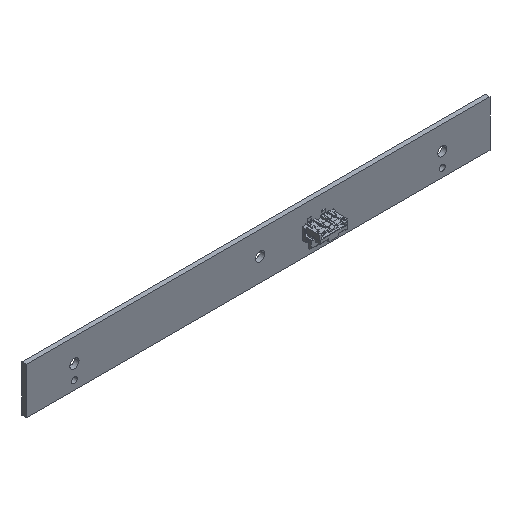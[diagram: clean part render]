
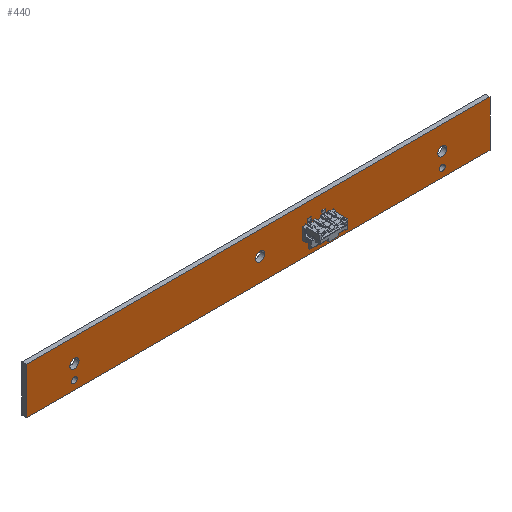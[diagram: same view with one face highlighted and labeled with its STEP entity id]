
A CAD part, isometric view. The second image highlights one B-rep face of the part: STEP entity #440.
In plain terms, the highlighted planar face has unit normal (0, -1, 0).
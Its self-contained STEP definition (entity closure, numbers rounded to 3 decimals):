
#24=DIRECTION('',(0.,0.,1.));
#25=VECTOR('',#24,16.);
#26=CARTESIAN_POINT('',(-80.,0.,-8.));
#27=LINE('',#26,#25);
#32=DIRECTION('',(1.,0.,0.));
#33=VECTOR('',#32,160.);
#34=CARTESIAN_POINT('',(-80.,0.,8.));
#35=LINE('',#34,#33);
#39=DIRECTION('',(0.,0.,-1.));
#40=VECTOR('',#39,16.);
#41=CARTESIAN_POINT('',(80.,0.,8.));
#42=LINE('',#41,#40);
#46=DIRECTION('',(-1.,0.,0.));
#47=VECTOR('',#46,160.);
#48=CARTESIAN_POINT('',(80.,0.,-8.));
#49=LINE('',#48,#47);
#53=CARTESIAN_POINT('',(-63.5,0.,0.));
#54=DIRECTION('',(0.,-1.,0.));
#55=DIRECTION('',(-1.,0.,0.));
#56=AXIS2_PLACEMENT_3D('',#53,#54,#55);
#61=CARTESIAN_POINT('',(-63.5,0.,0.));
#62=DIRECTION('',(0.,-1.,0.));
#63=DIRECTION('',(1.,0.,0.));
#64=AXIS2_PLACEMENT_3D('',#61,#62,#63);
#69=CARTESIAN_POINT('',(63.55,0.,0.));
#70=DIRECTION('',(0.,-1.,0.));
#71=DIRECTION('',(-1.,0.,0.));
#72=AXIS2_PLACEMENT_3D('',#69,#70,#71);
#77=CARTESIAN_POINT('',(63.55,0.,0.));
#78=DIRECTION('',(0.,-1.,0.));
#79=DIRECTION('',(1.,0.,0.));
#80=AXIS2_PLACEMENT_3D('',#77,#78,#79);
#85=CARTESIAN_POINT('',(63.55,0.,-5.));
#86=DIRECTION('',(0.,-1.,0.));
#87=DIRECTION('',(-1.,0.,0.));
#88=AXIS2_PLACEMENT_3D('',#85,#86,#87);
#93=CARTESIAN_POINT('',(63.55,0.,-5.));
#94=DIRECTION('',(0.,-1.,0.));
#95=DIRECTION('',(1.,0.,0.));
#96=AXIS2_PLACEMENT_3D('',#93,#94,#95);
#101=CARTESIAN_POINT('',(-63.5,0.,-5.));
#102=DIRECTION('',(0.,-1.,0.));
#103=DIRECTION('',(-1.,0.,0.));
#104=AXIS2_PLACEMENT_3D('',#101,#102,#103);
#109=CARTESIAN_POINT('',(-63.5,0.,-5.));
#110=DIRECTION('',(0.,-1.,0.));
#111=DIRECTION('',(1.,0.,0.));
#112=AXIS2_PLACEMENT_3D('',#109,#110,#111);
#117=CARTESIAN_POINT('',(0.6,0.,0.));
#118=DIRECTION('',(0.,-1.,0.));
#119=DIRECTION('',(-1.,0.,0.));
#120=AXIS2_PLACEMENT_3D('',#117,#118,#119);
#125=CARTESIAN_POINT('',(0.6,0.,0.));
#126=DIRECTION('',(0.,-1.,0.));
#127=DIRECTION('',(1.,0.,0.));
#128=AXIS2_PLACEMENT_3D('',#125,#126,#127);
#339=CARTESIAN_POINT('',(-80.,0.,-8.));
#340=CARTESIAN_POINT('',(-80.,0.,8.));
#341=VERTEX_POINT('',#339);
#342=VERTEX_POINT('',#340);
#343=CARTESIAN_POINT('',(80.,0.,8.));
#344=VERTEX_POINT('',#343);
#345=CARTESIAN_POINT('',(80.,0.,-8.));
#346=VERTEX_POINT('',#345);
#347=CARTESIAN_POINT('',(-65.1,0.,0.));
#348=CARTESIAN_POINT('',(-61.9,0.,0.));
#349=VERTEX_POINT('',#347);
#350=VERTEX_POINT('',#348);
#351=CARTESIAN_POINT('',(61.95,0.,0.));
#352=CARTESIAN_POINT('',(65.15,0.,0.));
#353=VERTEX_POINT('',#351);
#354=VERTEX_POINT('',#352);
#355=CARTESIAN_POINT('',(62.55,0.,-5.));
#356=CARTESIAN_POINT('',(64.55,0.,-5.));
#357=VERTEX_POINT('',#355);
#358=VERTEX_POINT('',#356);
#359=CARTESIAN_POINT('',(-64.5,0.,-5.));
#360=CARTESIAN_POINT('',(-62.5,0.,-5.));
#361=VERTEX_POINT('',#359);
#362=VERTEX_POINT('',#360);
#363=CARTESIAN_POINT('',(-1.,0.,0.));
#364=CARTESIAN_POINT('',(2.2,0.,0.));
#365=VERTEX_POINT('',#363);
#366=VERTEX_POINT('',#364);
#395=CARTESIAN_POINT('',(0.,0.,0.));
#396=DIRECTION('',(0.,1.,0.));
#397=DIRECTION('',(1.,0.,0.));
#398=AXIS2_PLACEMENT_3D('',#395,#396,#397);
#399=PLANE('',#398);
#401=ORIENTED_EDGE('',*,*,#400,.T.);
#403=ORIENTED_EDGE('',*,*,#402,.T.);
#405=ORIENTED_EDGE('',*,*,#404,.T.);
#407=ORIENTED_EDGE('',*,*,#406,.T.);
#408=EDGE_LOOP('',(#401,#403,#405,#407));
#409=FACE_OUTER_BOUND('',#408,.F.);
#411=ORIENTED_EDGE('',*,*,#410,.T.);
#413=ORIENTED_EDGE('',*,*,#412,.T.);
#414=EDGE_LOOP('',(#411,#413));
#415=FACE_BOUND('',#414,.F.);
#417=ORIENTED_EDGE('',*,*,#416,.T.);
#419=ORIENTED_EDGE('',*,*,#418,.T.);
#420=EDGE_LOOP('',(#417,#419));
#421=FACE_BOUND('',#420,.F.);
#423=ORIENTED_EDGE('',*,*,#422,.T.);
#425=ORIENTED_EDGE('',*,*,#424,.T.);
#426=EDGE_LOOP('',(#423,#425));
#427=FACE_BOUND('',#426,.F.);
#429=ORIENTED_EDGE('',*,*,#428,.T.);
#431=ORIENTED_EDGE('',*,*,#430,.T.);
#432=EDGE_LOOP('',(#429,#431));
#433=FACE_BOUND('',#432,.F.);
#435=ORIENTED_EDGE('',*,*,#434,.T.);
#437=ORIENTED_EDGE('',*,*,#436,.T.);
#438=EDGE_LOOP('',(#435,#437));
#439=FACE_BOUND('',#438,.F.);
#57=CIRCLE('',#56,1.6);
#65=CIRCLE('',#64,1.6);
#73=CIRCLE('',#72,1.6);
#81=CIRCLE('',#80,1.6);
#89=CIRCLE('',#88,1.);
#97=CIRCLE('',#96,1.);
#105=CIRCLE('',#104,1.);
#113=CIRCLE('',#112,1.);
#121=CIRCLE('',#120,1.6);
#129=CIRCLE('',#128,1.6);
#400=EDGE_CURVE('',#341,#342,#27,.T.);
#402=EDGE_CURVE('',#342,#344,#35,.T.);
#404=EDGE_CURVE('',#344,#346,#42,.T.);
#406=EDGE_CURVE('',#346,#341,#49,.T.);
#410=EDGE_CURVE('',#349,#350,#57,.T.);
#412=EDGE_CURVE('',#350,#349,#65,.T.);
#416=EDGE_CURVE('',#353,#354,#73,.T.);
#418=EDGE_CURVE('',#354,#353,#81,.T.);
#422=EDGE_CURVE('',#357,#358,#89,.T.);
#424=EDGE_CURVE('',#358,#357,#97,.T.);
#428=EDGE_CURVE('',#361,#362,#105,.T.);
#430=EDGE_CURVE('',#362,#361,#113,.T.);
#434=EDGE_CURVE('',#365,#366,#121,.T.);
#436=EDGE_CURVE('',#366,#365,#129,.T.);
#440=ADVANCED_FACE('',(#409,#415,#421,#427,#433,#439),#399,.F.);
